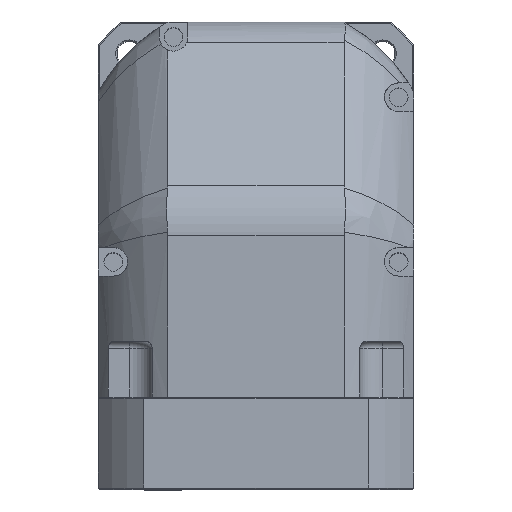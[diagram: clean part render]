
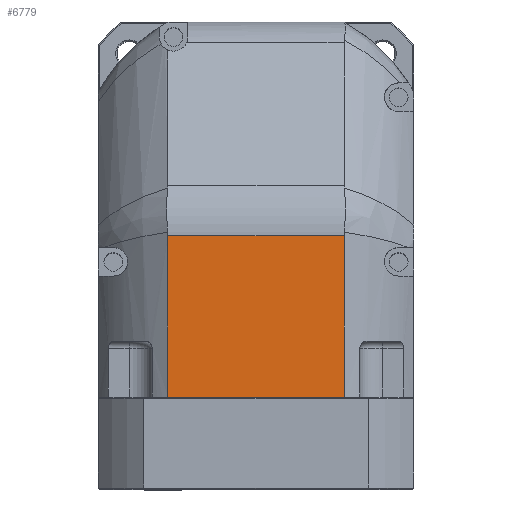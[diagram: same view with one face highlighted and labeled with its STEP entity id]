
A CAD part, top view. The second image highlights one B-rep face of the part: STEP entity #6779.
In plain terms, the highlighted planar face has unit normal (0, 0, 1).
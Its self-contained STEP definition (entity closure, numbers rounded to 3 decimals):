
#3753=CARTESIAN_POINT('',(-61.449,-152.,422.));
#3754=VERTEX_POINT('',#3753);
#3762=CARTESIAN_POINT('',(-61.449,-39.584,422.));
#3763=VERTEX_POINT('',#3762);
#3764=CARTESIAN_POINT('',(-61.449,-39.584,422.));
#3765=DIRECTION('',(0.0,-1.0,0.0));
#3766=VECTOR('',#3765,112.416);
#3767=LINE('',#3764,#3766);
#3768=EDGE_CURVE('',#3763,#3754,#3767,.T.);
#6313=CARTESIAN_POINT('',(61.449,-152.,422.));
#6314=VERTEX_POINT('',#6313);
#6315=CARTESIAN_POINT('',(-61.449,-152.,422.));
#6316=DIRECTION('',(1.0,0.0,0.0));
#6317=VECTOR('',#6316,122.898);
#6318=LINE('',#6315,#6317);
#6319=EDGE_CURVE('',#3754,#6314,#6318,.T.);
#6756=CARTESIAN_POINT('',(0.,0.,422.));
#6757=DIRECTION('',(0.0,0.0,-1.0));
#6758=DIRECTION('',(-1.0,0.0,0.0));
#6759=AXIS2_PLACEMENT_3D('',#6756,#6757,#6758);
#6760=PLANE('',#6759);
#6761=ORIENTED_EDGE('',*,*,#6319,.T.);
#6762=CARTESIAN_POINT('',(61.449,-39.584,422.));
#6763=VERTEX_POINT('',#6762);
#6764=CARTESIAN_POINT('',(61.449,-152.,422.));
#6765=DIRECTION('',(0.0,1.0,0.0));
#6766=VECTOR('',#6765,112.416);
#6767=LINE('',#6764,#6766);
#6768=EDGE_CURVE('',#6314,#6763,#6767,.T.);
#6769=ORIENTED_EDGE('',*,*,#6768,.T.);
#6770=CARTESIAN_POINT('',(-61.449,-39.584,422.));
#6771=DIRECTION('',(1.0,0.0,0.0));
#6772=VECTOR('',#6771,122.898);
#6773=LINE('',#6770,#6772);
#6774=EDGE_CURVE('',#3763,#6763,#6773,.T.);
#6775=ORIENTED_EDGE('',*,*,#6774,.F.);
#6776=ORIENTED_EDGE('',*,*,#3768,.T.);
#6777=EDGE_LOOP('',(#6761,#6769,#6775,#6776));
#6778=FACE_OUTER_BOUND('',#6777,.T.);
#6779=ADVANCED_FACE('',(#6778),#6760,.F.);
